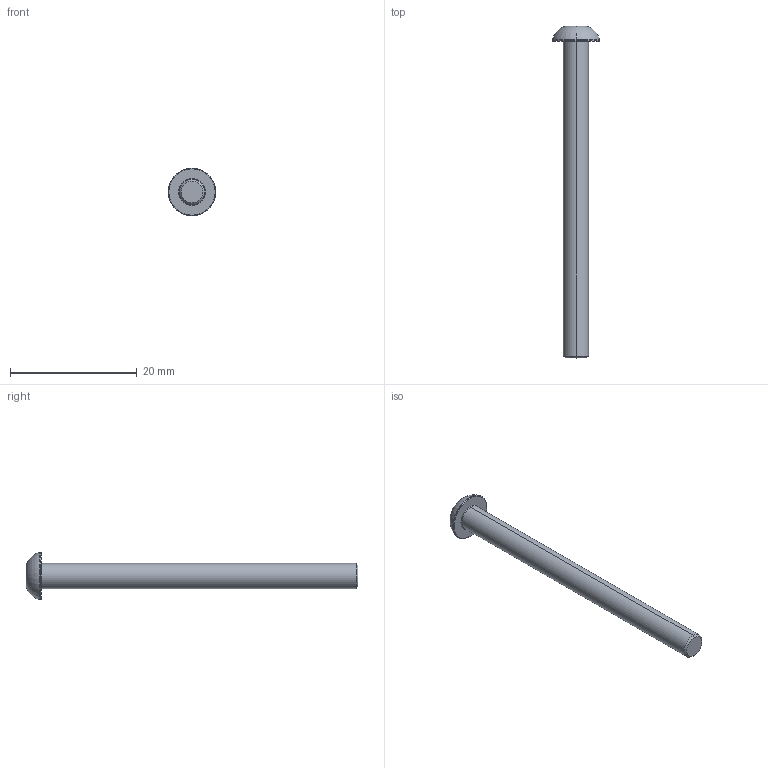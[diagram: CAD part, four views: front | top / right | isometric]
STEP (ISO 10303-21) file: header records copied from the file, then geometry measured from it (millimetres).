
FILE_DESCRIPTION (( 'STEP AP203' ), '1' );
FILE_NAME ('LGDD-TD-M4x50.STEP', '2026-08-14T01:17:59', ( '' ), ( '' ), 'SwSTEP 2.0', 'SolidWorks 2020', '' );
FILE_SCHEMA (( 'CONFIG_CONTROL_DESIGN' ));
Length unit declared in the file: millimetre
Products named in the file (1): LGDD-TD-M4x50
Bounding box: 7.5 x 52.4 x 7.5 mm (x, y, z)
Volume: 695 mm3; surface area: 754 mm2
Topology: 1 solids, 1 shells, 31 faces, 59 edges, 32 vertices
Faces by surface type: plane 10, cone 9, torus 8, cylinder 4
Entity records: 864 total; most frequent: CARTESIAN_POINT 154, DIRECTION 149, ORIENTED_EDGE 118, AXIS2_PLACEMENT_3D 65, EDGE_CURVE 59, CIRCLE 33, EDGE_LOOP 33, VERTEX_POINT 32
